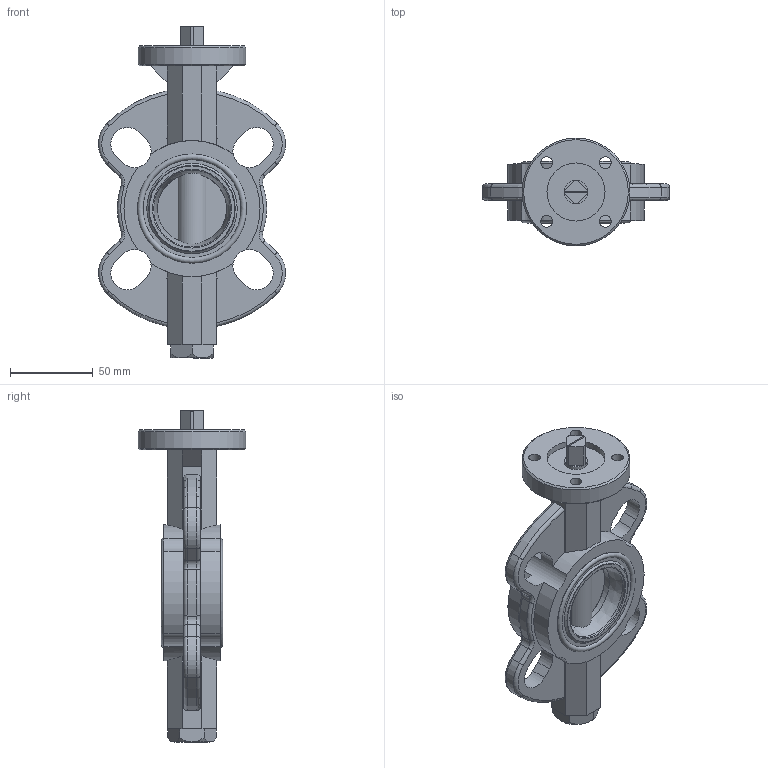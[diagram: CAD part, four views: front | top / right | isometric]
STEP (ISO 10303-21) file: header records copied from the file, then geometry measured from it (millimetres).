
FILE_DESCRIPTION( ( 'STEP AP214' ), '1' );
FILE_NAME( ' ', ' ', ( ' ' ), ( ' ' ), 'PSStep 13.0', 'VISI 18.0', ' ' );
FILE_SCHEMA( ( 'AUTOMOTIVE_DESIGN { 1 0 10303 214 1 1 1 1 }' ) );
Length unit declared in the file: millimetre
Products named in the file (1): 1
Bounding box: 112.65 x 65 x 200 mm (x, y, z)
Volume: 296183.5 mm3; surface area: 53822.1 mm2
Topology: 1 solids, 1 shells, 185 faces, 515 edges, 330 vertices
Faces by surface type: plane 72, cylinder 61, torus 34, cone 14, bspline 4
Full cylindrical faces by diameter (mm): 7 x4, 14 x1, 35 x1, 65 x1, 65.8 x2
Entity records: 8599 total; most frequent: CARTESIAN_POINT 2368, DIRECTION 1030, ORIENTED_EDGE 966, EDGE_CURVE 483, AXIS2_PLACEMENT_3D 409, VERTEX_POINT 321, EDGE_LOOP 230, CIRCLE 215
